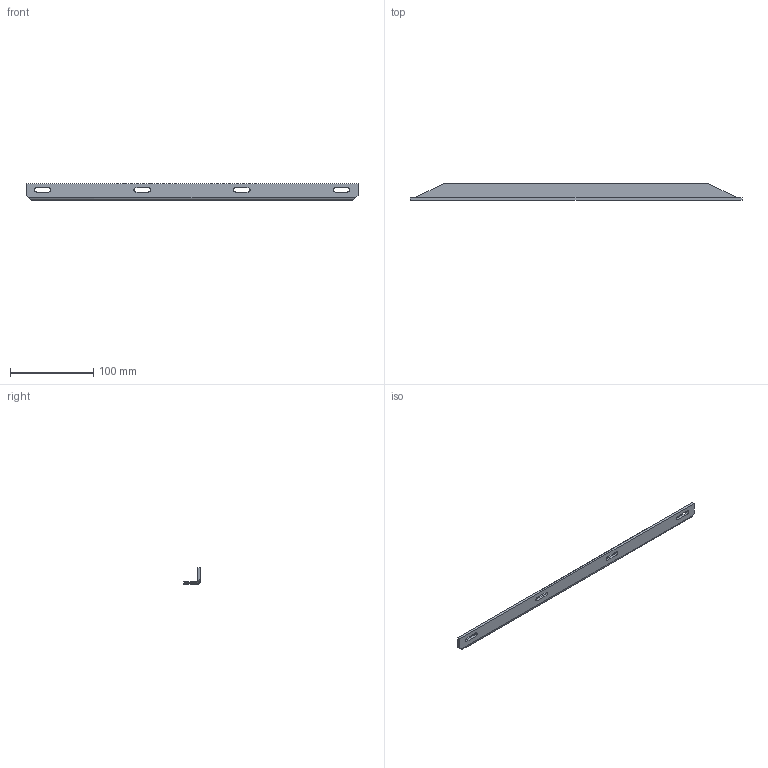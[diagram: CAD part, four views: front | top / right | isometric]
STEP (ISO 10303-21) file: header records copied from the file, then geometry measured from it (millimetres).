
FILE_DESCRIPTION (( 'STEP AP214' ), '1' );
FILE_NAME ('E446-400.STEP', '2024-12-11T22:57:39', ( '' ), ( '' ), 'SwSTEP 2.0', 'SolidWorks 2024', '' );
FILE_SCHEMA (( 'AUTOMOTIVE_DESIGN' ));
Length unit declared in the file: millimetre
Products named in the file (1): E446-400
Bounding box: 400 x 20 x 20 mm (x, y, z)
Volume: 39785.9 mm3; surface area: 29631.9 mm2
Topology: 1 solids, 1 shells, 84 faces, 226 edges, 148 vertices
Faces by surface type: plane 62, cylinder 16, bspline 6
Entity records: 2759 total; most frequent: CARTESIAN_POINT 641, ORIENTED_EDGE 452, DIRECTION 396, EDGE_CURVE 226, LINE 182, VECTOR 182, VERTEX_POINT 148, AXIS2_PLACEMENT_3D 107
